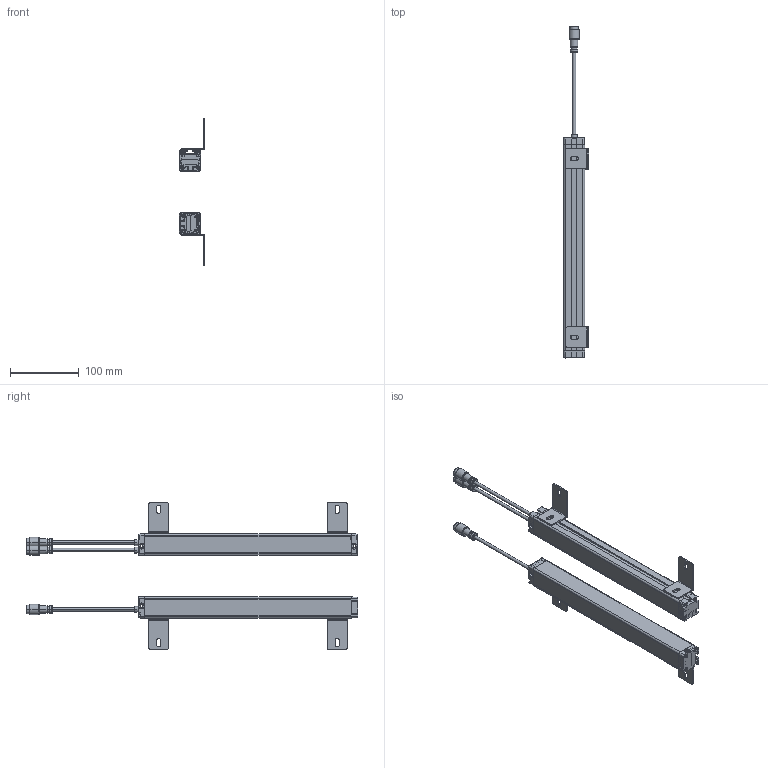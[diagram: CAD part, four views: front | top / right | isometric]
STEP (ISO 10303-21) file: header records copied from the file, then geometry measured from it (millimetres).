
FILE_DESCRIPTION(/* description */ (''),/* implementation_level */ '2;1');
FILE_NAME(/* name */ 'THZ20-14_stp.prt.stp',/* time_stamp */ '2024-03-29T10:01:02+08:00',/* author */ (''),/* organization */ (''),/* preprocessor_version */ 'ST-DEVELOPER v16',/* originating_system */ 'SIEMENS PLM Software NX 11.0',/* authorisation */ '');
FILE_SCHEMA (('AUTOMOTIVE_DESIGN { 1 0 10303 214 3 1 1 1 }'));
Length unit declared in the file: millimetre
Products named in the file (12): MANIFOLD_SOLID_BREP_108_5; 100_516375; 1_WIRE_535795; MANIFOLD_SOLID_BREP_109_5; 100_5; 1_WIRE_5; MANIFOLD_SOLID_BREP_107_5; MANIFOLD_SOLID_BREP_106_5; THW-THS L型侧装片; THZ20-12S; THZ20-12F; THZ20-14_stp
Assembly tree (15 placements, depth 3):
  THZ20-14_stp
    THW-THS L型侧装片  x4
    THZ20-12F
      MANIFOLD_SOLID_BREP_106_5
      MANIFOLD_SOLID_BREP_107_5
      1_WIRE_5
      100_5
    THZ20-12S
      MANIFOLD_SOLID_BREP_109_5
      1_WIRE_535795  x2
      100_516375
      MANIFOLD_SOLID_BREP_108_5
Bounding box: 36.6 x 482.98 x 214.6 mm (x, y, z)
Volume: 308540.7 mm3; surface area: 196121.3 mm2
Topology: 21 solids, 21 shells, 1296 faces, 3637 edges, 2418 vertices
Faces by surface type: plane 850, cylinder 369, torus 36, bspline 33, cone 8
Entity records: 40481 total; most frequent: CARTESIAN_POINT 9040, ORIENTED_EDGE 6710, DIRECTION 6250, EDGE_CURVE 3355, LINE 2396, VECTOR 2396, VERTEX_POINT 2226, AXIS2_PLACEMENT_3D 1927
